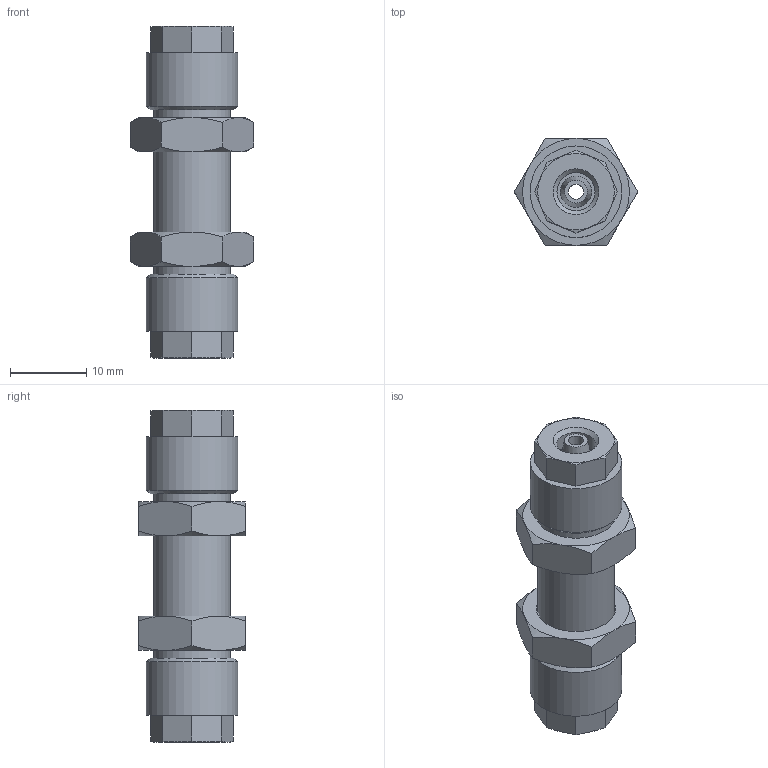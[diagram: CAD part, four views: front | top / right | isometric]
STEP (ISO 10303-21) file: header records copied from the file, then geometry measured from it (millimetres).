
FILE_DESCRIPTION(/* description */ (''),/* implementation_level */ '2;1');
FILE_NAME(/* name */ '10503_304_64_53_17.07.17',/* time_stamp */ '2017-07-17T11:51:31+02:00',/* author */ (''),/* organization */ (''),/* preprocessor_version */ 'ST-DEVELOPER v16.5',/* originating_system */ 'HiCAD 2016 2102.2 Build 618',/* authorisation */ '');
FILE_SCHEMA (('AUTOMOTIVE_DESIGN { 1 0 10303 214 1 1 1 1 }'));
Length unit declared in the file: millimetre
Products named in the file (6): Root; R10503; Kontermutter; 17005; 02_17005_5
Assembly tree (5 placements, depth 2):
  Root
    R10503
    Kontermutter
    Kontermutter
    17005
    02_17005_5
Bounding box: 16.17 x 14 x 43.5 mm (x, y, z)
Volume: 4460.4 mm3; surface area: 4260.6 mm2
Topology: 5 solids, 5 shells, 116 faces, 254 edges, 154 vertices
Faces by surface type: cone 57, plane 44, cylinder 13, torus 2
Full cylindrical faces by diameter (mm): 2 x1, 3 x1, 3.7 x1, 4.7 x1, 5 x1, 6 x1, 8.773 x4, 10 x1, 12 x2
Entity records: 5156 total; most frequent: DIRECTION 624, CARTESIAN_POINT 474, PRESENTATION_STYLE_ASSIGNMENT 421, COLOUR_RGB 417, DRAUGHTING_PRE_DEFINED_CURVE_FONT 416, CURVE_STYLE 416, OVER_RIDING_STYLED_ITEM 416, ORIENTED_EDGE 416
